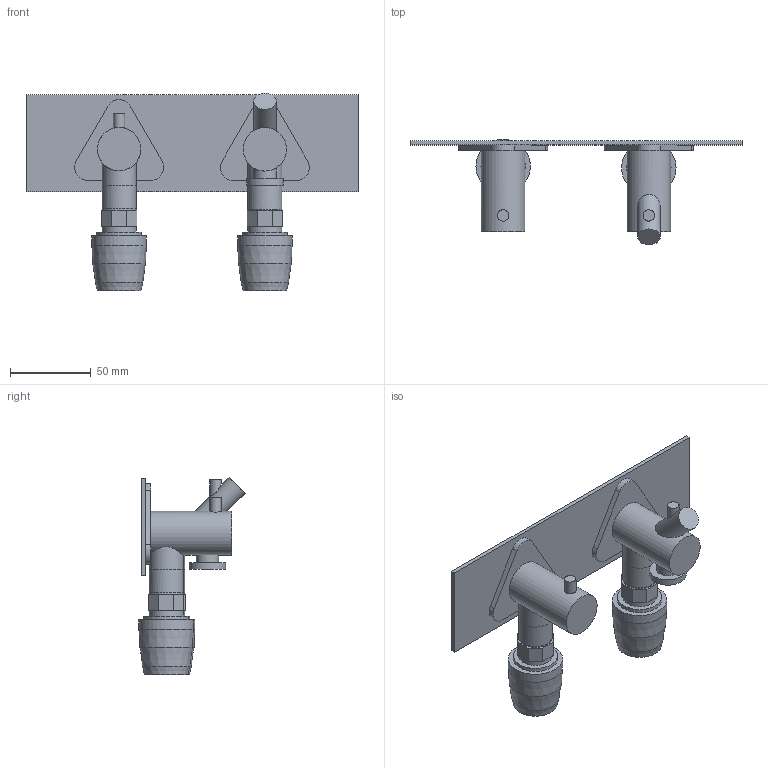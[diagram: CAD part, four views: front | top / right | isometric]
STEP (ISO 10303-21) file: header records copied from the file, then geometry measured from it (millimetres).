
FILE_DESCRIPTION(('STEP AP214'),'1');
FILE_NAME('Instaset_7875.STP','2025-09-23T12:55:01',(' '),(' '),'Spatial InterOp 3D',' ',' ');
FILE_SCHEMA(('AUTOMOTIVE_DESIGN { 1 0 10303 214 1 1 1 1 }'));
Length unit declared in the file: millimetre
Products named in the file (1): Quader
Bounding box: 205 x 65.58 x 122.08 mm (x, y, z)
Volume: 201030.9 mm3; surface area: 78640.3 mm2
Topology: 19 solids, 19 shells, 109 faces, 197 edges, 132 vertices
Faces by surface type: plane 74, cylinder 29, cone 6
Full cylindrical faces by diameter (mm): 0 x6, 7 x2, 13.867 x1, 14 x1, 20.954 x2, 21 x4, 22.622 x1, 26.818 x2, 27.32 x2, 33.62 x2
Entity records: 3106 total; most frequent: CARTESIAN_POINT 806, DIRECTION 477, ORIENTED_EDGE 320, AXIS2_PLACEMENT_3D 195, EDGE_CURVE 160, EDGE_LOOP 156, VERTEX_POINT 124, ADVANCED_FACE 109
